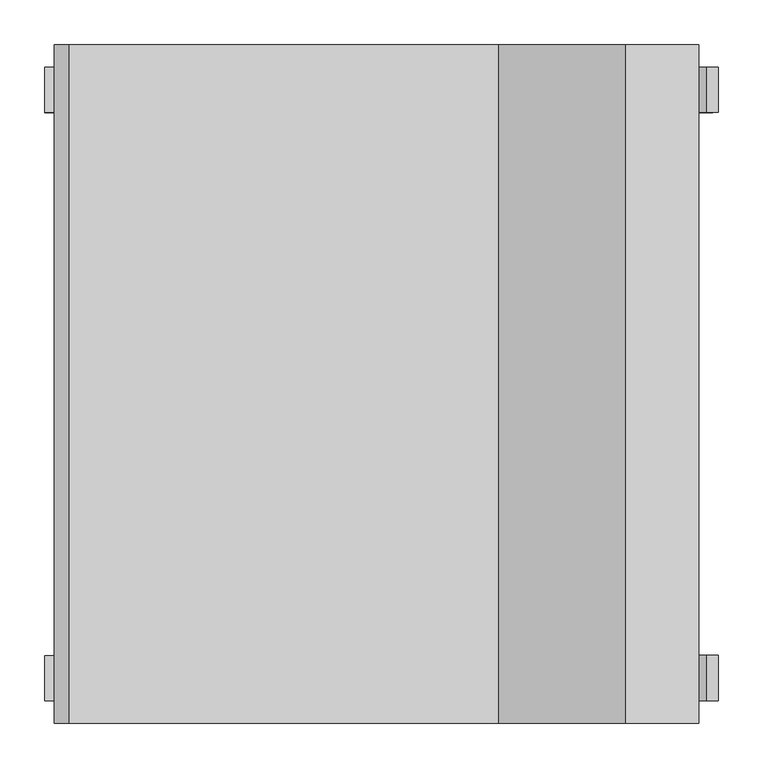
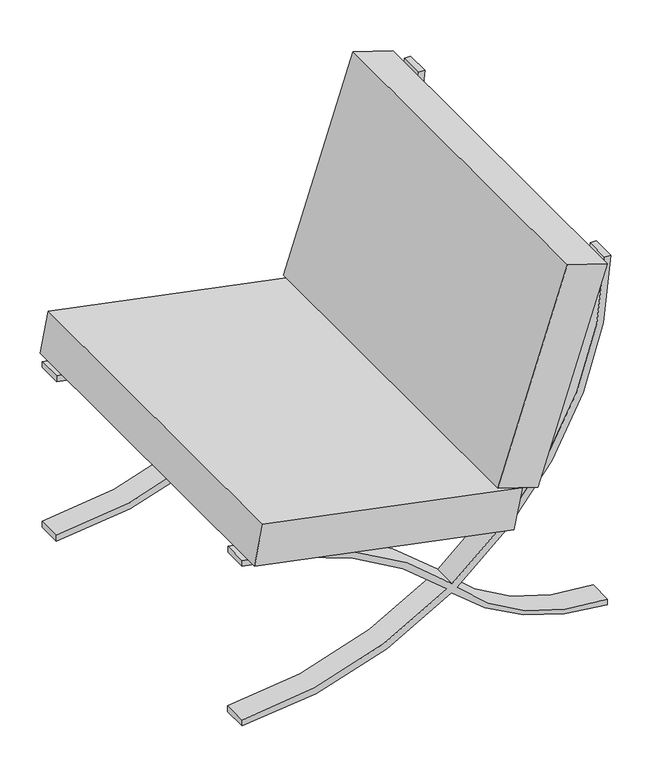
"""IFC4 building model written with IfcOpenShell, lengths in millimetres: furniture geometry, Barcelona_Chair_4171 : Barcelona_Chair_4171."""

from ifc_helpers import new_model, si_unit, point, frame, frame_2d, origin, place, context, project, spatial, polyline, circle_curve, trimmed, segment, composite_curve, outline, extrude, source, transform, mapped, element, save


def furniture_ccc315bb(model_context):
    return source(origin(), model_context, "Body", "SweptSolid", [
        extrude(outline(polyline([(325.5367165, 308.3896437), (759.9481625, 450.9327445), (786.803049, 369.0903403), (352.3915975, 226.547256), (325.5367165, 308.3896437)])), frame((0.0, -381.0, 0.0), z_axis=(0.0, 1.0, 0.0), x_axis=(0.0, 0.0, 1.0)), (0.0, 0.0, 1.0), 762.0),
        extrude(outline(polyline([(335.2988837, 276.4653414), (442.643479, -255.9382441), (358.2068965, -272.9625674), (250.8623214, 259.4410222), (335.2988837, 276.4653414)])), frame((0.0, -381.0, 0.0), z_axis=(0.0, 1.0, 0.0), x_axis=(0.0, 0.0, 1.0)), (0.0, 0.0, 1.0), 762.0),
        extrude(outline(composite_curve([segment(trimmed(circle_curve(frame_2d((-341.759409, -347.8132435)), 703.1431484), [point((157.7521807, 147.0589206))], [point((358.414609, -283.2637927))], False, "CARTESIAN"), True, "CONTINUOUS"), segment(polyline([(358.414609, -283.2637927), (346.0102681, -283.2637927)]), True, "CONTINUOUS"), segment(trimmed(circle_curve(frame_2d((-339.4403825, -346.9581909)), 688.4036394), [point((346.0102681, -283.2637927))], [point((150.3855478, 136.7463974))], True, "CARTESIAN"), True, "CONTINUOUS"), segment(trimmed(circle_curve(frame_2d((772.2034703, -299.6547248)), 759.6732642), [point((150.3855478, 136.7463974))], [point((12.6996843, -283.6089388))], True, "CARTESIAN"), True, "CONTINUOUS"), segment(polyline([(12.6996843, -283.6089388), (-0.0033074, -283.6089388)]), True, "CONTINUOUS"), segment(trimmed(circle_curve(frame_2d((765.4563497, -292.9106083)), 765.5161707), [point((-0.0033074, -283.6089388))], [point((138.4923626, 146.3286961))], False, "CARTESIAN"), True, "CONTINUOUS"), segment(trimmed(circle_curve(frame_2d((476.7846332, 482.710146)), 477.0682762), [point((138.4923626, 146.3286961))], [point((0.0, 466.2616291))], False, "CARTESIAN"), True, "CONTINUOUS"), segment(polyline([(0.0, 466.2616291), (12.7006432, 466.2616291)]), True, "CONTINUOUS"), segment(trimmed(circle_curve(frame_2d((427.0280667, 462.0578544)), 414.3487488), [point((12.7006432, 466.2616291))], [point((146.3146159, 157.2877047))], True, "CARTESIAN"), True, "CONTINUOUS"), segment(trimmed(circle_curve(frame_2d((765.4563497, -292.9106083)), 765.5161707), [point((146.3146159, 157.2877047))], [point((756.1576576, 472.5490849))], False, "CARTESIAN"), True, "CONTINUOUS"), segment(polyline([(756.1576576, 472.5490849), (756.1576576, 459.8490607)]), True, "CONTINUOUS"), segment(trimmed(circle_curve(frame_2d((772.2034703, -299.6547248)), 759.6732642), [point((756.1576576, 459.8490607))], [point((157.7521807, 147.0589206))], True, "CARTESIAN"), True, "CONTINUOUS")], self_intersect=False)), frame((0.0, 304.8, 0.0), z_axis=(0.0, 1.0, 0.0), x_axis=(0.0, 0.0, 1.0)), (0.0, 0.0, 1.0), 50.8),
        extrude(outline(composite_curve([segment(trimmed(circle_curve(frame_2d((-341.759409, -347.8132435)), 703.1431484), [point((157.7521807, 147.0589206))], [point((358.414609, -283.2637927))], False, "CARTESIAN"), True, "CONTINUOUS"), segment(polyline([(358.414609, -283.2637927), (346.0102681, -283.2637927)]), True, "CONTINUOUS"), segment(trimmed(circle_curve(frame_2d((-339.4403825, -346.9581909)), 688.4036394), [point((346.0102681, -283.2637927))], [point((150.3855478, 136.7463974))], True, "CARTESIAN"), True, "CONTINUOUS"), segment(trimmed(circle_curve(frame_2d((772.2034703, -299.6547248)), 759.6732642), [point((150.3855478, 136.7463974))], [point((12.6996843, -283.6089388))], True, "CARTESIAN"), True, "CONTINUOUS"), segment(polyline([(12.6996843, -283.6089388), (-0.0033074, -283.6089388)]), True, "CONTINUOUS"), segment(trimmed(circle_curve(frame_2d((765.4563497, -292.9106083)), 765.5161707), [point((-0.0033074, -283.6089388))], [point((138.4923626, 146.3286961))], False, "CARTESIAN"), True, "CONTINUOUS"), segment(trimmed(circle_curve(frame_2d((476.7846332, 482.710146)), 477.0682762), [point((138.4923626, 146.3286961))], [point((0.0, 466.2616291))], False, "CARTESIAN"), True, "CONTINUOUS"), segment(polyline([(0.0, 466.2616291), (12.7006432, 466.2616291)]), True, "CONTINUOUS"), segment(trimmed(circle_curve(frame_2d((427.0280667, 462.0578544)), 414.3487488), [point((12.7006432, 466.2616291))], [point((146.3146159, 157.2877047))], True, "CARTESIAN"), True, "CONTINUOUS"), segment(trimmed(circle_curve(frame_2d((765.4563497, -292.9106083)), 765.5161707), [point((146.3146159, 157.2877047))], [point((756.1576576, 472.5490849))], False, "CARTESIAN"), True, "CONTINUOUS"), segment(polyline([(756.1576576, 472.5490849), (756.1576576, 459.8490607)]), True, "CONTINUOUS"), segment(trimmed(circle_curve(frame_2d((772.2034703, -299.6547248)), 759.6732642), [point((756.1576576, 459.8490607))], [point((157.7521807, 147.0589206))], True, "CARTESIAN"), True, "CONTINUOUS")], self_intersect=False)), frame((0.0, -355.6, 0.0), z_axis=(0.0, 1.0, 0.0), x_axis=(0.0, 0.0, 1.0)), (0.0, 0.0, 1.0), 50.8),
    ])


if __name__ == "__main__":
    model = new_model("IFC4")
    model_context = context("Model", 3, world=origin())
    ifc_project = project(units=[si_unit("LENGTHUNIT", "METRE", prefix="MILLI")], contexts=[model_context])
    site = spatial("IfcSite", under=ifc_project)
    building = spatial("IfcBuilding", under=site)
    placement = place(None, origin())
    furniture_shape = furniture_ccc315bb(model_context)
    element("IfcFurniture", 1, ObjectType="Barcelona_Chair_4171 : Barcelona_Chair_4171", at=placement, inside=building, context=model_context, shape_type="MappedRepresentation", body=[
        mapped(furniture_shape, transform((0.0, 0.0, 0.0), x_axis=(1.0, 0.0, 0.0), y_axis=(0.0, 1.0, 0.0), z_axis=(0.0, 0.0, 1.0))),
    ])
    save(model, "model.ifc")
